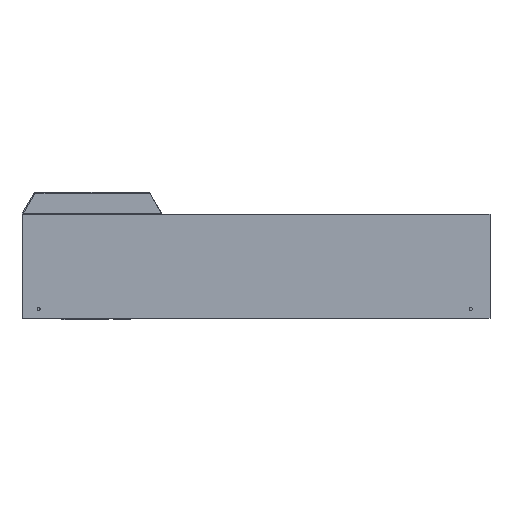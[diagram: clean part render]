
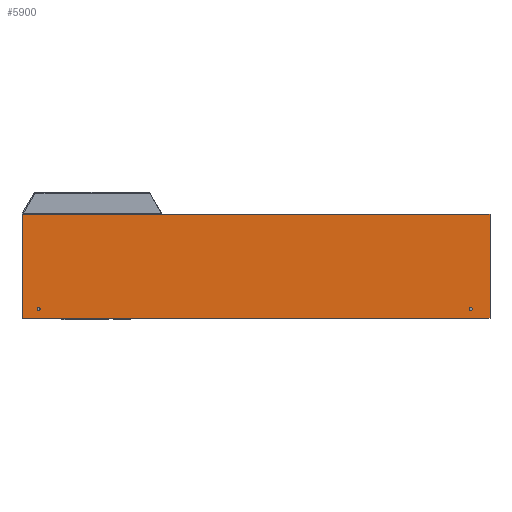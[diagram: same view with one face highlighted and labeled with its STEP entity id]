
A CAD part, left-side view. The second image highlights one B-rep face of the part: STEP entity #5900.
In plain terms, the highlighted planar face has unit normal (-1, 0, 0).
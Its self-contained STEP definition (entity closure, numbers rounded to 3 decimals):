
#5800 = VERTEX_POINT ( 'NONE', #45108 ) ;
#5805 = EDGE_CURVE ( 'NONE', #5807, #5800, #45106, .T. ) ;
#5807 = VERTEX_POINT ( 'NONE', #45102 ) ;
#5851 = ORIENTED_EDGE ( 'NONE', *, *, #30119, .T. ) ;
#5853 = ORIENTED_EDGE ( 'NONE', *, *, #5855, .T. ) ;
#5855 = EDGE_CURVE ( 'NONE', #30024, #30120, #45118, .T. ) ;
#5859 = EDGE_LOOP ( 'NONE', ( #5861, #5863, #5867, #5869 ) ) ;
#5861 = ORIENTED_EDGE ( 'NONE', *, *, #29249, .F. ) ;
#5863 = ORIENTED_EDGE ( 'NONE', *, *, #5865, .F. ) ;
#5865 = EDGE_CURVE ( 'NONE', #5807, #29246, #45113, .T. ) ;
#5867 = ORIENTED_EDGE ( 'NONE', *, *, #5805, .T. ) ;
#5869 = ORIENTED_EDGE ( 'NONE', *, *, #5871, .T. ) ;
#5871 = EDGE_CURVE ( 'NONE', #5800, #29250, #45172, .T. ) ;
#5874 = EDGE_LOOP ( 'NONE', ( #5875, #5877 ) ) ;
#5875 = ORIENTED_EDGE ( 'NONE', *, *, #30002, .T. ) ;
#5877 = ORIENTED_EDGE ( 'NONE', *, *, #5970, .T. ) ;
#5900 = ADVANCED_FACE ( 'NONE', ( #45153, #45152, #45151 ), #45150, .T. ) ;
#5902 = EDGE_LOOP ( 'NONE', ( #5851, #5853 ) ) ;
#5970 = EDGE_CURVE ( 'NONE', #30052, #30004, #45330, .T. ) ;
#29246 = VERTEX_POINT ( 'NONE', #33975 ) ;
#29249 = EDGE_CURVE ( 'NONE', #29246, #29250, #33969, .T. ) ;
#29250 = VERTEX_POINT ( 'NONE', #32976 ) ;
#30002 = EDGE_CURVE ( 'NONE', #30004, #30052, #34973, .T. ) ;
#30004 = VERTEX_POINT ( 'NONE', #34969 ) ;
#30024 = VERTEX_POINT ( 'NONE', #34947 ) ;
#30052 = VERTEX_POINT ( 'NONE', #34979 ) ;
#30119 = EDGE_CURVE ( 'NONE', #30120, #30024, #35099, .T. ) ;
#30120 = VERTEX_POINT ( 'NONE', #35094 ) ;
#32976 = CARTESIAN_POINT ( 'NONE',  ( -196.895, 0., 0. ) ) ;
#33965 = DIRECTION ( 'NONE',  ( 0., -1., 0. ) ) ;
#33967 = VECTOR ( 'NONE', #33965, 1000. ) ;
#33968 = CARTESIAN_POINT ( 'NONE',  ( -196.895, 1209.4, 0. ) ) ;
#33969 = LINE ( 'NONE', #33968, #33967 ) ;
#33975 = CARTESIAN_POINT ( 'NONE',  ( -196.895, 1209.4, 0. ) ) ;
#34917 = CARTESIAN_POINT ( 'NONE',  ( -196.895, 1167.73, -245.76 ) ) ;
#34947 = CARTESIAN_POINT ( 'NONE',  ( -196.895, 49.5, -249.72 ) ) ;
#34969 = CARTESIAN_POINT ( 'NONE',  ( -196.895, 1167.73, -241.79 ) ) ;
#34970 = DIRECTION ( 'NONE',  ( 0., -1., 0. ) ) ;
#34971 = DIRECTION ( 'NONE',  ( 1., 0., 0. ) ) ;
#34972 = AXIS2_PLACEMENT_3D ( 'NONE', #34917, #34971, #34970 ) ;
#34973 = CIRCLE ( 'NONE', #34972, 3.97 ) ;
#34979 = CARTESIAN_POINT ( 'NONE',  ( -196.895, 1167.73, -249.73 ) ) ;
#35094 = CARTESIAN_POINT ( 'NONE',  ( -196.895, 49.5, -241.8 ) ) ;
#35095 = DIRECTION ( 'NONE',  ( 0., -1., 0. ) ) ;
#35096 = DIRECTION ( 'NONE',  ( 1., 0., 0. ) ) ;
#35097 = CARTESIAN_POINT ( 'NONE',  ( -196.895, 49.5, -245.76 ) ) ;
#35098 = AXIS2_PLACEMENT_3D ( 'NONE', #35097, #35096, #35095 ) ;
#35099 = CIRCLE ( 'NONE', #35098, 3.96 ) ;
#45102 = CARTESIAN_POINT ( 'NONE',  ( -196.895, 1209.4, -269.18 ) ) ;
#45103 = DIRECTION ( 'NONE',  ( 0., -1., 0. ) ) ;
#45104 = VECTOR ( 'NONE', #45103, 1000. ) ;
#45105 = CARTESIAN_POINT ( 'NONE',  ( -196.895, 1209.4, -269.18 ) ) ;
#45106 = LINE ( 'NONE', #45105, #45104 ) ;
#45108 = CARTESIAN_POINT ( 'NONE',  ( -196.895, 0., -269.18 ) ) ;
#45113 = LINE ( 'NONE', #45175, #45174 ) ;
#45114 = DIRECTION ( 'NONE',  ( 0., -1., 0. ) ) ;
#45115 = DIRECTION ( 'NONE',  ( 1., 0., 0. ) ) ;
#45116 = CARTESIAN_POINT ( 'NONE',  ( -196.895, 49.5, -245.76 ) ) ;
#45117 = AXIS2_PLACEMENT_3D ( 'NONE', #45116, #45115, #45114 ) ;
#45118 = CIRCLE ( 'NONE', #45117, 3.96 ) ;
#45145 = DIRECTION ( 'NONE',  ( 0., -1., 0. ) ) ;
#45146 = DIRECTION ( 'NONE',  ( -1., 0., 0. ) ) ;
#45147 = AXIS2_PLACEMENT_3D ( 'NONE', #45149, #45146, #45145 ) ;
#45149 = CARTESIAN_POINT ( 'NONE',  ( -196.895, 1209.4, -269.18 ) ) ;
#45150 = PLANE ( 'NONE',  #45147 ) ;
#45151 = FACE_BOUND ( 'NONE', #5874, .T. ) ;
#45152 = FACE_OUTER_BOUND ( 'NONE', #5859, .T. ) ;
#45153 = FACE_BOUND ( 'NONE', #5902, .T. ) ;
#45169 = DIRECTION ( 'NONE',  ( 0., 0., 1. ) ) ;
#45170 = VECTOR ( 'NONE', #45169, 1000. ) ;
#45171 = CARTESIAN_POINT ( 'NONE',  ( -196.895, 0., -269.18 ) ) ;
#45172 = LINE ( 'NONE', #45171, #45170 ) ;
#45173 = DIRECTION ( 'NONE',  ( 0., 0., 1. ) ) ;
#45174 = VECTOR ( 'NONE', #45173, 1000. ) ;
#45175 = CARTESIAN_POINT ( 'NONE',  ( -196.895, 1209.4, -269.18 ) ) ;
#45271 = CARTESIAN_POINT ( 'NONE',  ( -196.895, 1167.73, -245.76 ) ) ;
#45327 = DIRECTION ( 'NONE',  ( 0., -1., 0. ) ) ;
#45328 = DIRECTION ( 'NONE',  ( 1., 0., 0. ) ) ;
#45329 = AXIS2_PLACEMENT_3D ( 'NONE', #45271, #45328, #45327 ) ;
#45330 = CIRCLE ( 'NONE', #45329, 3.97 ) ;
